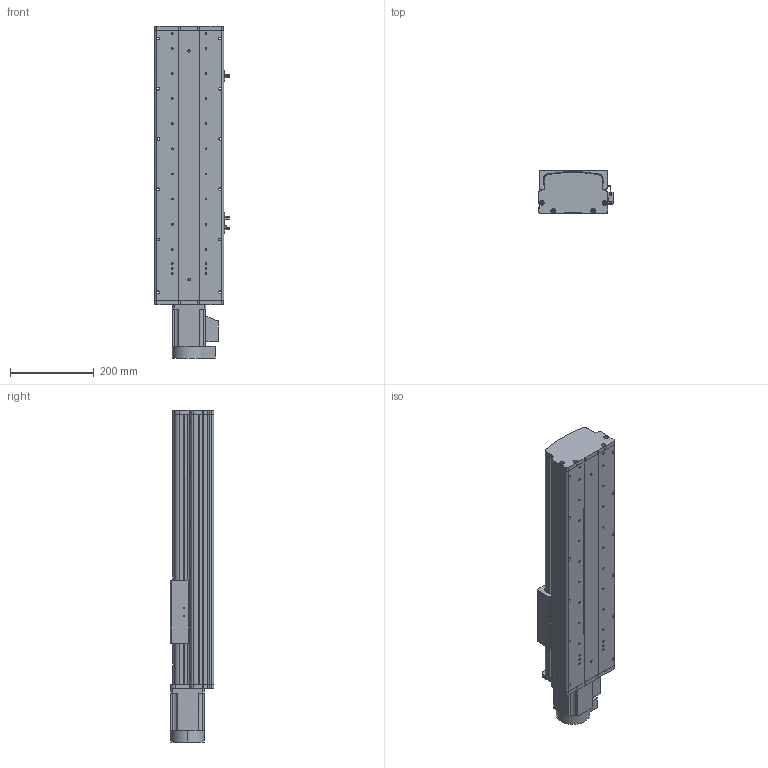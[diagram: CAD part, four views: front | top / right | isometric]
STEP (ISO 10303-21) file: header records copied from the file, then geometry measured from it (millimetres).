
FILE_DESCRIPTION (( 'STEP AP214' ), '1' );
FILE_NAME ('KSD165S-S350-MN-CM .STEP', '2017-08-07T08:06:50', ( '微软用户' ), ( '微软中国' ), 'SwSTEP 2.0', 'SolidWorks 2014', '' );
FILE_SCHEMA (( 'AUTOMOTIVE_DESIGN' ));
Length unit declared in the file: millimetre
Products named in the file (12): KSD165耀郪-綴傷啣1; KSD165模组-丝杆滑动座-最新版; KSD165S-S350-MN-CM ; KSD165模组-防尘盖1-350行程-直连不带电机座; KSD165模组底板-350行程-直连不带电机座; 拸秶雄ん750W侜督萇儂; KSD165模组-直连不带电机座电机连接板; KSD165耀郪-佪裝-滅袉菜-3 -; C44ㄜ1912WP; 覜茼え68遵圉猾敕; U倰嫖萇假蚾璃; U倰嫖萇EEㄜSX672
Assembly tree (15 placements, depth 2):
  KSD165S-S350-MN-CM 
    KSD165模组-丝杆滑动座-最新版
    KSD165耀郪-綴傷啣1
    U倰嫖萇EEㄜSX672  x3
    U倰嫖萇假蚾璃  x3
    覜茼え68遵圉猾敕
    C44ㄜ1912WP
    KSD165耀郪-佪裝-滅袉菜-3 -
    KSD165模组-直连不带电机座电机连接板
    拸秶雄ん750W侜督萇儂
    KSD165模组底板-350行程-直连不带电机座
    KSD165模组-防尘盖1-350行程-直连不带电机座
Bounding box: 178.7 x 104 x 793 mm (x, y, z)
Volume: 4932571.1 mm3; surface area: 1059964 mm2
Topology: 16 solids, 16 shells, 1165 faces, 3250 edges, 2105 vertices
Faces by surface type: cylinder 599, plane 489, cone 77
Entity records: 36255 total; most frequent: CARTESIAN_POINT 8151, DIRECTION 5395, ORIENTED_EDGE 5180, EDGE_CURVE 2590, AXIS2_PLACEMENT_3D 2013, VERTEX_POINT 1697, VECTOR 1369, LINE 1369
